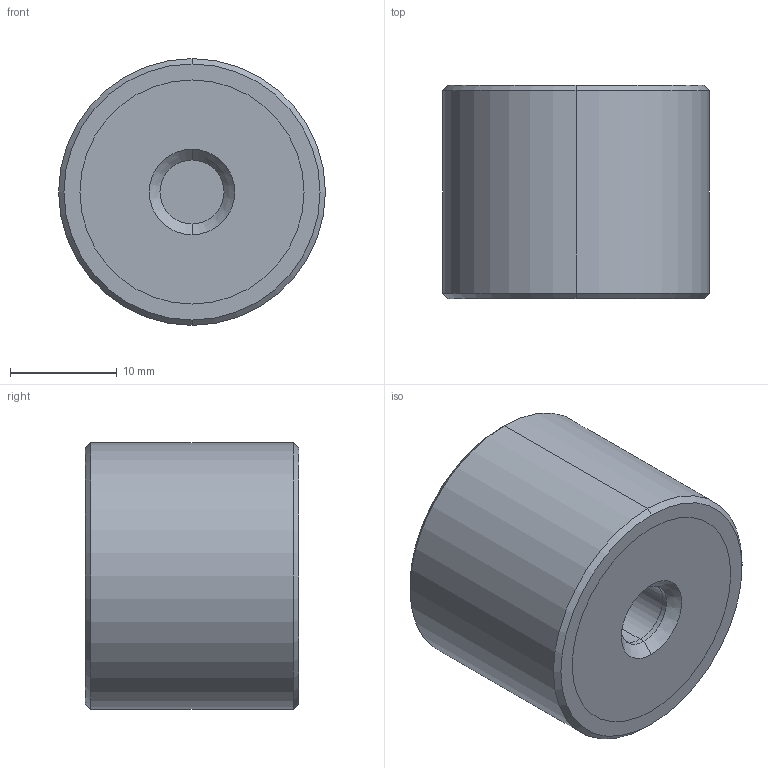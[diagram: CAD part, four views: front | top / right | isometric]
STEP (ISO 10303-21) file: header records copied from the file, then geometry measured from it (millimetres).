
FILE_DESCRIPTION (( 'STEP AP203' ), '1' );
FILE_NAME ('61080.W0251.step', '2018-07-16T20:43:05', ( '' ), ( '' ), 'SwSTEP 2.0', 'SolidWorks 2017', '' );
FILE_SCHEMA (( 'CONFIG_CONTROL_DESIGN' ));
Length unit declared in the file: millimetre
Products named in the file (4): 61080.W0251; Part1_61080.W0251; Part3_61080.W0251; Part2_61080.W0251
Assembly tree (3 placements, depth 2):
  61080.W0251
    Part1_61080.W0251
    Part2_61080.W0251
    Part3_61080.W0251
Bounding box: 25 x 20 x 25 mm (x, y, z)
Volume: 9437.9 mm3; surface area: 4380.8 mm2
Topology: 3 solids, 3 shells, 36 faces, 70 edges, 44 vertices
Faces by surface type: cylinder 18, plane 10, cone 8
Entity records: 1356 total; most frequent: DIRECTION 198, CARTESIAN_POINT 156, ORIENTED_EDGE 140, AXIS2_PLACEMENT_3D 86, EDGE_CURVE 70, CIRCLE 44, EDGE_LOOP 44, VERTEX_POINT 44
